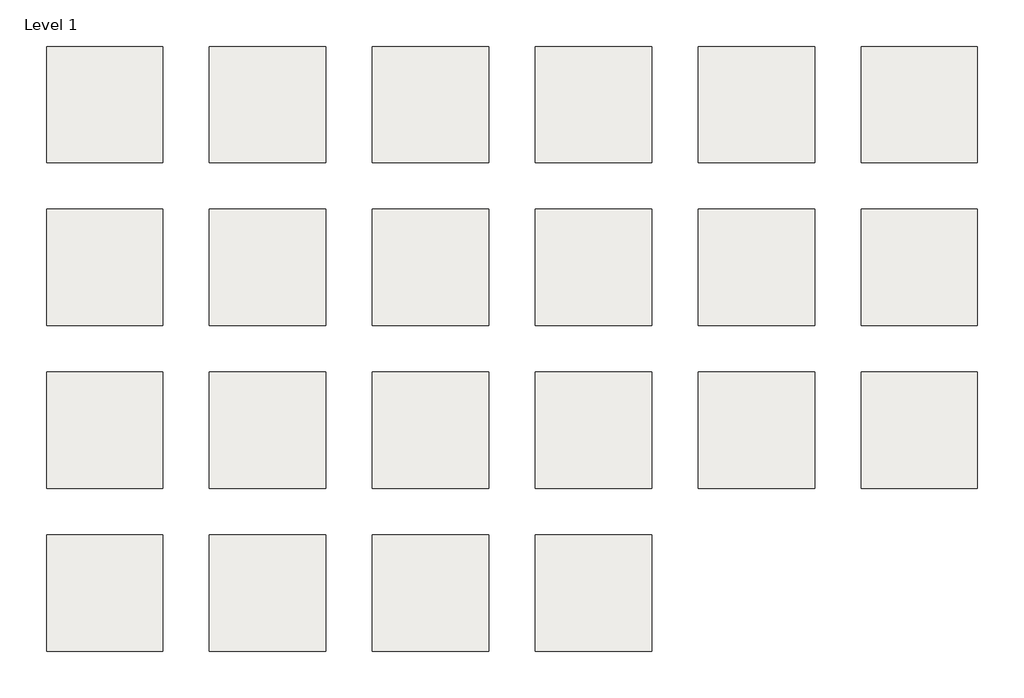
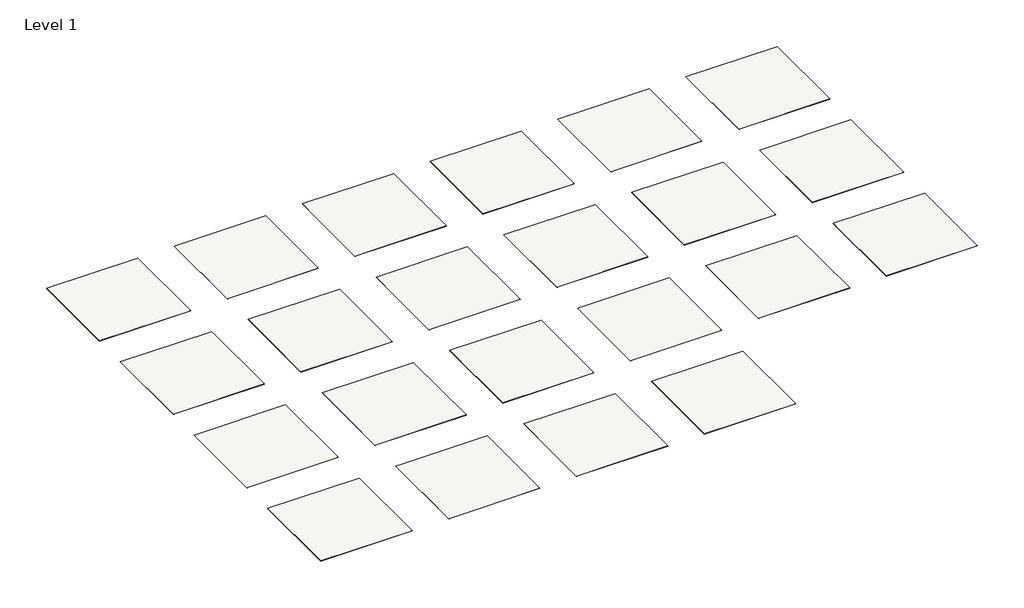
# One storey: 22 slabs.
"""IFC4 building model written with IfcOpenShell, lengths in millimetres."""

from ifc_helpers import new_model, si_unit, frame, origin, place, context, project, spatial, polyline, outline, extrude, element, save

model = new_model("IFC4")

# Units and contexts
model_context = context("Model", 3, world=origin())
ifc_project = project(units=[si_unit("LENGTHUNIT", "METRE", prefix="MILLI")], contexts=[model_context])

# Site, building, storey
site = spatial("IfcSite", under=ifc_project)
building = spatial("IfcBuilding", under=site)
storey = spatial("IfcBuildingStorey", under=building, Name="Level 1", Elevation=0.0)

# Slabs
placement = place(None, origin())
element("IfcSlab", 1, ObjectType="Armstrong Flooring_Terra_ST300_Plume", at=placement, inside=storey, context=model_context, shape_type="SweptSolid", body=[
    extrude(outline(polyline([(1219.2, 6400.8), (1219.2, 4876.8), (-304.8, 4876.8), (-304.8, 6400.8), (1219.2, 6400.8)])), frame((0.0, 0.0, -3.175), z_axis=(0.0, 0.0, 1.0), x_axis=(1.0, 0.0, 0.0)), (0.0, 0.0, 1.0), 3.175),
])
element("IfcSlab", 2, ObjectType="Armstrong Flooring_Terra_ST301_Strato", at=placement, inside=storey, context=model_context, shape_type="SweptSolid", body=[
    extrude(outline(polyline([(3352.8, 6400.8), (3352.8, 4876.8), (1828.8, 4876.8), (1828.8, 6400.8), (3352.8, 6400.8)])), frame((0.0, 0.0, -3.175), z_axis=(0.0, 0.0, 1.0), x_axis=(1.0, 0.0, 0.0)), (0.0, 0.0, 1.0), 3.175),
])
element("IfcSlab", 3, ObjectType="Armstrong Flooring_Terra_ST302_Basaltic", at=placement, inside=storey, context=model_context, shape_type="SweptSolid", body=[
    extrude(outline(polyline([(5486.4, 6400.8), (5486.4, 4876.8), (3962.4, 4876.8), (3962.4, 6400.8), (5486.4, 6400.8)])), frame((0.0, 0.0, -3.175), z_axis=(0.0, 0.0, 1.0), x_axis=(1.0, 0.0, 0.0)), (0.0, 0.0, 1.0), 3.175),
])
element("IfcSlab", 4, ObjectType="Armstrong Flooring_Terra_ST385_Ebony", at=placement, inside=storey, context=model_context, shape_type="SweptSolid", body=[
    extrude(outline(polyline([(7620.0, 6400.8), (7620.0, 4876.8), (6096.0, 4876.8), (6096.0, 6400.8), (7620.0, 6400.8)])), frame((0.0, 0.0, -3.175), z_axis=(0.0, 0.0, 1.0), x_axis=(1.0, 0.0, 0.0)), (0.0, 0.0, 1.0), 3.175),
])
element("IfcSlab", 5, ObjectType="Armstrong Flooring_Terra_ST387_Igneous", at=placement, inside=storey, context=model_context, shape_type="SweptSolid", body=[
    extrude(outline(polyline([(9753.6, 6400.8), (9753.6, 4876.8), (8229.6, 4876.8), (8229.6, 6400.8), (9753.6, 6400.8)])), frame((0.0, 0.0, -3.175), z_axis=(0.0, 0.0, 1.0), x_axis=(1.0, 0.0, 0.0)), (0.0, 0.0, 1.0), 3.175),
])
element("IfcSlab", 6, ObjectType="Armstrong Flooring_Terra_ST545_Feldspar", at=placement, inside=storey, context=model_context, shape_type="SweptSolid", body=[
    extrude(outline(polyline([(11887.2, 6400.8), (11887.2, 4876.8), (10363.2, 4876.8), (10363.2, 6400.8), (11887.2, 6400.8)])), frame((0.0, 0.0, -3.175), z_axis=(0.0, 0.0, 1.0), x_axis=(1.0, 0.0, 0.0)), (0.0, 0.0, 1.0), 3.175),
])
element("IfcSlab", 7, ObjectType="Armstrong Flooring_Terra_ST546_Sinai", at=placement, inside=storey, context=model_context, shape_type="SweptSolid", body=[
    extrude(outline(polyline([(1219.2, 4267.2), (1219.2, 2743.2), (-304.8, 2743.2), (-304.8, 4267.2), (1219.2, 4267.2)])), frame((0.0, 0.0, -3.175), z_axis=(0.0, 0.0, 1.0), x_axis=(1.0, 0.0, 0.0)), (0.0, 0.0, 1.0), 3.175),
])
element("IfcSlab", 8, ObjectType="Armstrong Flooring_Terra_ST547_Cleo", at=placement, inside=storey, context=model_context, shape_type="SweptSolid", body=[
    extrude(outline(polyline([(3352.8, 4267.2), (3352.8, 2743.2), (1828.8, 2743.2), (1828.8, 4267.2), (3352.8, 4267.2)])), frame((0.0, 0.0, -3.175), z_axis=(0.0, 0.0, 1.0), x_axis=(1.0, 0.0, 0.0)), (0.0, 0.0, 1.0), 3.175),
])
element("IfcSlab", 9, ObjectType="Armstrong Flooring_Terra_ST548_Lotus", at=placement, inside=storey, context=model_context, shape_type="SweptSolid", body=[
    extrude(outline(polyline([(5486.4, 4267.2), (5486.4, 2743.2), (3962.4, 2743.2), (3962.4, 4267.2), (5486.4, 4267.2)])), frame((0.0, 0.0, -3.175), z_axis=(0.0, 0.0, 1.0), x_axis=(1.0, 0.0, 0.0)), (0.0, 0.0, 1.0), 3.175),
])
element("IfcSlab", 10, ObjectType="Armstrong Flooring_Terra_ST549_Moonstone", at=placement, inside=storey, context=model_context, shape_type="SweptSolid", body=[
    extrude(outline(polyline([(7620.0, 4267.2), (7620.0, 2743.2), (6096.0, 2743.2), (6096.0, 4267.2), (7620.0, 4267.2)])), frame((0.0, 0.0, -3.175), z_axis=(0.0, 0.0, 1.0), x_axis=(1.0, 0.0, 0.0)), (0.0, 0.0, 1.0), 3.175),
])
element("IfcSlab", 11, ObjectType="Armstrong Flooring_Terra_ST384_Ochre", at=placement, inside=storey, context=model_context, shape_type="SweptSolid", body=[
    extrude(outline(polyline([(9753.6, 4267.2), (9753.6, 2743.2), (8229.6, 2743.2), (8229.6, 4267.2), (9753.6, 4267.2)])), frame((0.0, 0.0, -3.175), z_axis=(0.0, 0.0, 1.0), x_axis=(1.0, 0.0, 0.0)), (0.0, 0.0, 1.0), 3.175),
])
element("IfcSlab", 12, ObjectType="Armstrong Flooring_Terra_ST388_Chalcedony", at=placement, inside=storey, context=model_context, shape_type="SweptSolid", body=[
    extrude(outline(polyline([(11887.2, 4267.2), (11887.2, 2743.2), (10363.2, 2743.2), (10363.2, 4267.2), (11887.2, 4267.2)])), frame((0.0, 0.0, -3.175), z_axis=(0.0, 0.0, 1.0), x_axis=(1.0, 0.0, 0.0)), (0.0, 0.0, 1.0), 3.175),
])
element("IfcSlab", 13, ObjectType="Armstrong Flooring_Terra_ST389_Azurite", at=placement, inside=storey, context=model_context, shape_type="SweptSolid", body=[
    extrude(outline(polyline([(1219.2, 2133.6), (1219.2, 609.6), (-304.8, 609.6), (-304.8, 2133.6), (1219.2, 2133.6)])), frame((0.0, 0.0, -3.175), z_axis=(0.0, 0.0, 1.0), x_axis=(1.0, 0.0, 0.0)), (0.0, 0.0, 1.0), 3.175),
])
element("IfcSlab", 14, ObjectType="Armstrong Flooring_Terra_ST550_Nero", at=placement, inside=storey, context=model_context, shape_type="SweptSolid", body=[
    extrude(outline(polyline([(3352.8, 2133.6), (3352.8, 609.6), (1828.8, 609.6), (1828.8, 2133.6), (3352.8, 2133.6)])), frame((0.0, 0.0, -3.175), z_axis=(0.0, 0.0, 1.0), x_axis=(1.0, 0.0, 0.0)), (0.0, 0.0, 1.0), 3.175),
])
element("IfcSlab", 15, ObjectType="Armstrong Flooring_Terra_ST551_Scuro", at=placement, inside=storey, context=model_context, shape_type="SweptSolid", body=[
    extrude(outline(polyline([(5486.4, 2133.6), (5486.4, 609.6), (3962.4, 609.6), (3962.4, 2133.6), (5486.4, 2133.6)])), frame((0.0, 0.0, -3.175), z_axis=(0.0, 0.0, 1.0), x_axis=(1.0, 0.0, 0.0)), (0.0, 0.0, 1.0), 3.175),
])
element("IfcSlab", 16, ObjectType="Armstrong Flooring_Terra_ST552_Verde", at=placement, inside=storey, context=model_context, shape_type="SweptSolid", body=[
    extrude(outline(polyline([(7620.0, 2133.6), (7620.0, 609.6), (6096.0, 609.6), (6096.0, 2133.6), (7620.0, 2133.6)])), frame((0.0, 0.0, -3.175), z_axis=(0.0, 0.0, 1.0), x_axis=(1.0, 0.0, 0.0)), (0.0, 0.0, 1.0), 3.175),
])
element("IfcSlab", 17, ObjectType="Armstrong Flooring_Terra_ST553_Marrone", at=placement, inside=storey, context=model_context, shape_type="SweptSolid", body=[
    extrude(outline(polyline([(9753.6, 2133.6), (9753.6, 609.6), (8229.6, 609.6), (8229.6, 2133.6), (9753.6, 2133.6)])), frame((0.0, 0.0, -3.175), z_axis=(0.0, 0.0, 1.0), x_axis=(1.0, 0.0, 0.0)), (0.0, 0.0, 1.0), 3.175),
])
element("IfcSlab", 18, ObjectType="Armstrong Flooring_Terra_ST554_Chiaro", at=placement, inside=storey, context=model_context, shape_type="SweptSolid", body=[
    extrude(outline(polyline([(11887.2, 2133.6), (11887.2, 609.6), (10363.2, 609.6), (10363.2, 2133.6), (11887.2, 2133.6)])), frame((0.0, 0.0, -3.175), z_axis=(0.0, 0.0, 1.0), x_axis=(1.0, 0.0, 0.0)), (0.0, 0.0, 1.0), 3.175),
])
element("IfcSlab", 19, ObjectType="Armstrong Flooring_Terra_ST555_Bianco", at=placement, inside=storey, context=model_context, shape_type="SweptSolid", body=[
    extrude(outline(polyline([(1219.2, 0.0), (1219.2, -1524.0), (-304.8, -1524.0), (-304.8, 0.0), (1219.2, 0.0)])), frame((0.0, 0.0, -3.175), z_axis=(0.0, 0.0, 1.0), x_axis=(1.0, 0.0, 0.0)), (0.0, 0.0, 1.0), 3.175),
])
element("IfcSlab", 20, ObjectType="Armstrong Flooring_Terra_ST556_Grigio", at=placement, inside=storey, context=model_context, shape_type="SweptSolid", body=[
    extrude(outline(polyline([(3352.8, 0.0), (3352.8, -1524.0), (1828.8, -1524.0), (1828.8, 0.0), (3352.8, 0.0)])), frame((0.0, 0.0, -3.175), z_axis=(0.0, 0.0, 1.0), x_axis=(1.0, 0.0, 0.0)), (0.0, 0.0, 1.0), 3.175),
])
element("IfcSlab", 21, ObjectType="Armstrong Flooring_Terra_ST557_Rosa", at=placement, inside=storey, context=model_context, shape_type="SweptSolid", body=[
    extrude(outline(polyline([(5486.4, 0.0), (5486.4, -1524.0), (3962.4, -1524.0), (3962.4, 0.0), (5486.4, 0.0)])), frame((0.0, 0.0, -3.175), z_axis=(0.0, 0.0, 1.0), x_axis=(1.0, 0.0, 0.0)), (0.0, 0.0, 1.0), 3.175),
])
element("IfcSlab", 22, ObjectType="Armstrong Flooring_Terra_ST558_Nicciola", at=placement, inside=storey, context=model_context, shape_type="SweptSolid", body=[
    extrude(outline(polyline([(7620.0, 0.0), (7620.0, -1524.0), (6096.0, -1524.0), (6096.0, 0.0), (7620.0, 0.0)])), frame((0.0, 0.0, -3.175), z_axis=(0.0, 0.0, 1.0), x_axis=(1.0, 0.0, 0.0)), (0.0, 0.0, 1.0), 3.175),
])

save(model, "model.ifc")
